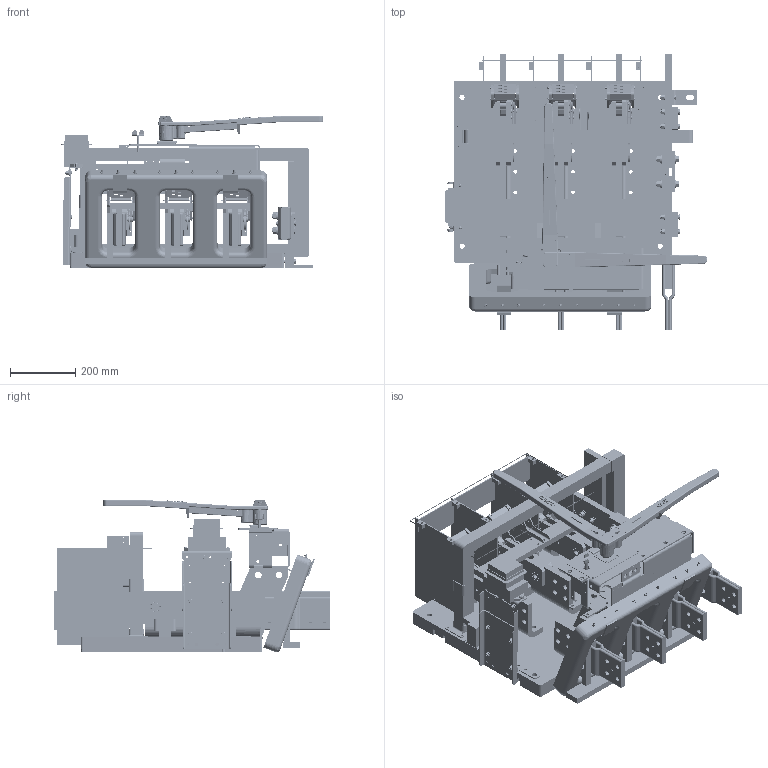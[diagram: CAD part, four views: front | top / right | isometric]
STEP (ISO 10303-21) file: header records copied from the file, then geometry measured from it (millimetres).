
FILE_DESCRIPTION(/* description */ (''),/* implementation_level */ '2;1');
FILE_NAME(/* name */ 'H:\switches\3d-templates\catalog-switches-iges-files\CATALOG-VL3612AG60.stp',/* time_stamp */ '2022-03-23T15:48:18-05:00',/* author */ ('MKingston'),/* organization */ (''),/* preprocessor_version */ 'ST-DEVELOPER v18.1',/* originating_system */ 'Autodesk Inventor 2022',/* authorisation */ '');
FILE_SCHEMA (('AUTOMOTIVE_DESIGN { 1 0 10303 214 3 1 1 }'));
Products named in the file (105): vl3612; 277; 671-dx; 671-cx; 671-EX; CATALOG-59-qd-arc-chute-assy; 50-ql; 50-qr; 59-qd-f; 363-a; 363-b; 59-QG; Bolted Connection; ANSI B18.6.3 - 8 - 32 x 3 1/2 SR HMS; ANSI B18.2.2 - 8 - 32, HMSNI; Bolted Connection_1; ANSI B18.6.3 - 8 - 32 x 1/2 SR HMS; Bolted Connection_2; ANSI B18.6.3 - 8 - 32 x 5/8 SR HMS; Bolted Connection_3; Bolted Connection_4; Unbrako - 1/4 x 1 1/2(2); CATALOG-3000amp-blade-assy; 671-A; 671-B; 69-gc3; 67-fc3; 70-M; 67-j; ANSI/ASM B18.1.1 - 1/4 x 3/4; ANSI/ASM B18.1.1 - 3/16 x 11/16; 235-b; 230-a; 255-z; 246-a; 255-bha; 255-c; 178-c; 178-b; 3000-VL-NEUTRAL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
Assembly tree (237 placements, depth 4):
  vl3612
    277
    671-dx  x3
    671-cx  x3
    671-EX  x3
    CATALOG-59-qd-arc-chute-assy  x3
      50-ql
      50-qr
      59-qd-f
      363-a
      363-b
      59-QG
      Bolted Connection
        ANSI B18.6.3 - 8 - 32 x 3 1/2 SR HMS  x2
        ANSI B18.2.2 - 8 - 32, HMSNI  x2
      Bolted Connection_1
        ANSI B18.6.3 - 8 - 32 x 1/2 SR HMS  x2
      Bolted Connection_2
        ANSI B18.6.3 - 8 - 32 x 5/8 SR HMS  x2
      Bolted Connection_3
        Unbrako - 1/4 x 1 1/2(2)
      Bolted Connection_4
        Unbrako - 1/4 x 1 1/2(2)
    CATALOG-3000amp-blade-assy  x3
      671-A
      671-B
      69-gc3
      67-fc3
      67-j
      70-M
      ANSI/ASM B18.1.1 - 1/4 x 3/4
      ANSI/ASM B18.1.1 - 3/16 x 11/16
    235-b
    230-a
    255-bha  x4
    255-z
    246-a  x2
    255-c
    178-c  x8
    178-b  x8
    3000-VL-NEUTRAL
      675-a
      675-gf  x2
      676-l  x4
      677-f  x2
      678-r
      675-ba
      Bolted Connection_5
        ASTM F436 - 1/2, CW  x8
        ANSI B18.2.1 - 1/2-13 UNC - 2.5, HCSI  x4
        ASME B18.21.1 - 1/2, RHSLW  x4
        AS 2465 - 1/2  UNC  x4
      Bolted Connection_6
        ASTM F436 - 3/8, CW  x4
        ANSI B18.2.1 - 3/8-16 UNC - 2.25, HCSI  x4
        ANSI B18.22.1 - 3/8 - Regular - Type B  x4
        ANSI B18.21.1 - 0.375  x4
        ANSI B18.2.2 - 3/8 - 16, HNI  x4
      Bolted Connection_7
        ASTM F436 - 3/8, CW
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Bounding box: 807.21 x 848.78 x 468.11 mm (x, y, z)
Volume: 32911446.7 mm3; surface area: 6187633.6 mm2
Topology: 305 solids, 306 shells, 7249 faces, 17746 edges, 11450 vertices
Faces by surface type: plane 3599, cylinder 2318, cone 956, torus 193, bspline 157, sphere 26
Full cylindrical faces by diameter (mm): 1.702 x8, 3.175 x4, 3.302 x32, 3.581 x2, 3.683 x8, 3.81 x9, 3.962 x11, 4.089 x4, 4.166 x18, 4.191 x9, 4.293 x9, 4.366 x2, 4.496 x24, 4.572 x9, 4.653 x4, 4.762 x49, 4.775 x8, 4.801 x8, 4.826 x2, 4.902 x14, 4.915 x24, 4.953 x4, 4.978 x15, 5.462 x4, 5.537 x3, 5.556 x5, 5.563 x4, 5.791 x6, 6.35 x29, 6.528 x70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
Entity records: 124469 total; most frequent: CARTESIAN_POINT 29984, DIRECTION 19249, ORIENTED_EDGE 18298, EDGE_CURVE 9157, AXIS2_PLACEMENT_3D 6910, VERTEX_POINT 5916, LINE 5429, VECTOR 5429
